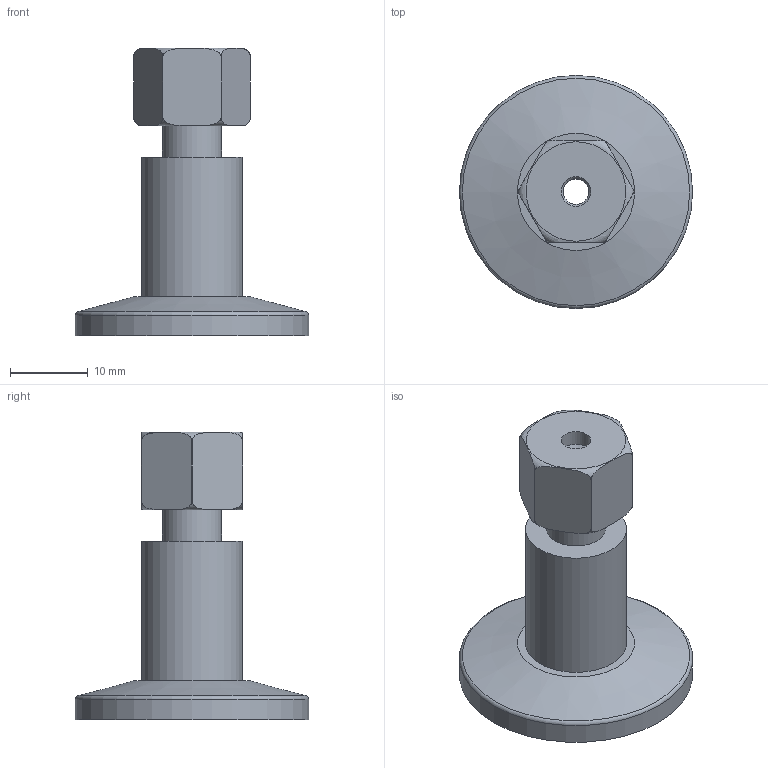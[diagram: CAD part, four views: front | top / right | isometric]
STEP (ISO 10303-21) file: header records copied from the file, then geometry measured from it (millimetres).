
FILE_DESCRIPTION( ( 'Unknown' ), '1' );
FILE_NAME( 'X:/Daten ( aktueller Bestand )/Projekte und Zeichnungen/Solid Edge/STP-Dateien/Sonderbauteile KF/1772.stp', 'Unknown', ( 'Unknown' ), ( 'Unknown' ), 'PSStep 14.0', 'Unknown', ' ' );
FILE_SCHEMA( ( 'AUTOMOTIVE_DESIGN { 1 0 10303 214 1 1 1 1 }' ) );
Length unit declared in the file: millimetre
Products named in the file (3): Assem1; 1762-1; 1762-2
Assembly tree (2 placements, depth 2):
  Assem1
    1762-1
    1762-2
Bounding box: 30 x 30 x 37 mm (x, y, z)
Volume: 5862.8 mm3; surface area: 4225.8 mm2
Topology: 2 solids, 2 shells, 37 faces, 82 edges, 53 vertices
Faces by surface type: plane 14, cylinder 14, cone 6, torus 3
Full cylindrical faces by diameter (mm): 3.3 x1, 3.8 x1, 7.6 x1, 10 x2, 13 x1, 17.2 x1, 30 x1
Entity records: 1608 total; most frequent: CARTESIAN_POINT 520, DIRECTION 164, ORIENTED_EDGE 120, AXIS2_PLACEMENT_3D 76, EDGE_LOOP 62, EDGE_CURVE 60, FACE_OUTER_BOUND 48, VERTEX_POINT 48
